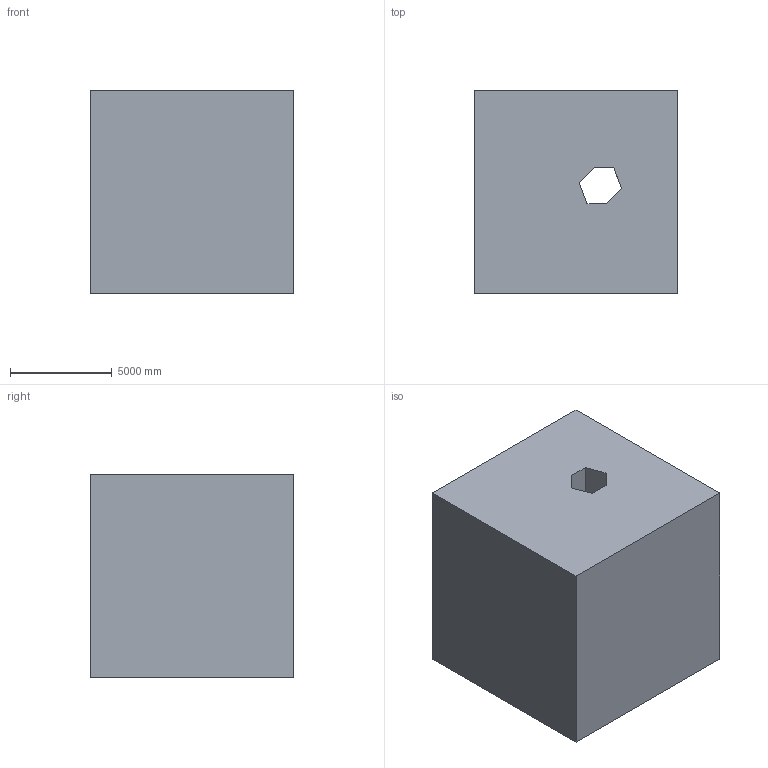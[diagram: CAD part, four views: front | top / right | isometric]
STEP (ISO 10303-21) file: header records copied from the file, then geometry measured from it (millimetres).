
FILE_DESCRIPTION (( 'STEP AP203' ), '1' );
FILE_NAME ('106.STEP', '2022-09-06T13:17:01', ( 'user' ), ( '' ), 'SwSTEP 2.0', 'SolidWorks 2021', '' );
FILE_SCHEMA (( 'CONFIG_CONTROL_DESIGN' ));
Length unit declared in the file: centimetre
Products named in the file (1): 106
Bounding box: 10000 x 10000 x 10000 mm (x, y, z)
Volume: 827365625066 mm3; surface area: 619820090.4 mm2
Topology: 1 solids, 1 shells, 14 faces, 36 edges, 24 vertices
Faces by surface type: plane 13, cylinder 1
Entity records: 503 total; most frequent: CARTESIAN_POINT 87, ORIENTED_EDGE 72, DIRECTION 64, EDGE_CURVE 36, LINE 30, VECTOR 30, VERTEX_POINT 24, AXIS2_PLACEMENT_3D 17
